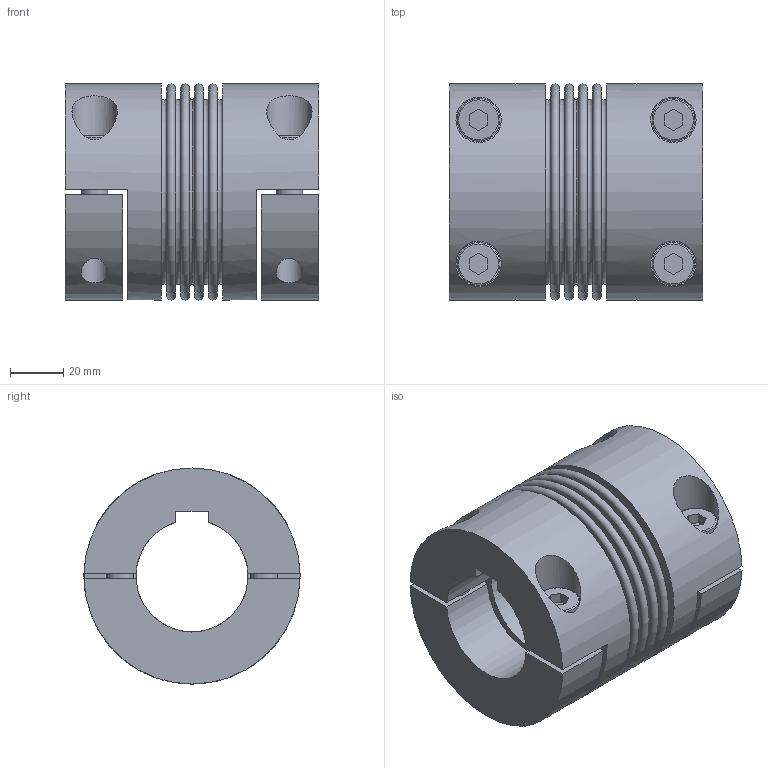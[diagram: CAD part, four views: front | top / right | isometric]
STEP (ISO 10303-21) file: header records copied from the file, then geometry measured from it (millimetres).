
FILE_DESCRIPTION(/* description */ ('STEP AP214'),/* implementation_level */ '2;1');
FILE_NAME(/* name */ 'C:\Diequa Files\DieQua Coupling\BCS\STP\BCS.150.95.#.#.stp',/* time_stamp */ '2018-11-15T09:40:46-06:00',/* author */ ('DiequaCAD'),/* organization */ (''),/* preprocessor_version */ 'ST-DEVELOPER v17.2',/* originating_system */ 'Autodesk Inventor 2019',/* authorisation */ ' ');
FILE_SCHEMA (('AUTOMOTIVE_DESIGN { 1 0 10303 214 3 1 1 }'));
Length unit declared in the file: millimetre
Products named in the file (1): BKH_150_95_42_PFN_42_PFN_19
Bounding box: 95 x 81 x 81 mm (x, y, z)
Volume: 290863.2 mm3; surface area: 76006.9 mm2
Topology: 1 solids, 1 shells, 113 faces, 261 edges, 180 vertices
Faces by surface type: plane 74, cylinder 25, torus 14
Full cylindrical faces by diameter (mm): 10 x8, 16 x4, 17 x4, 56 x1, 81 x2
Entity records: 3603 total; most frequent: CARTESIAN_POINT 855, DIRECTION 583, ORIENTED_EDGE 522, EDGE_CURVE 261, AXIS2_PLACEMENT_3D 220, VERTEX_POINT 180, EDGE_LOOP 149, LINE 143
